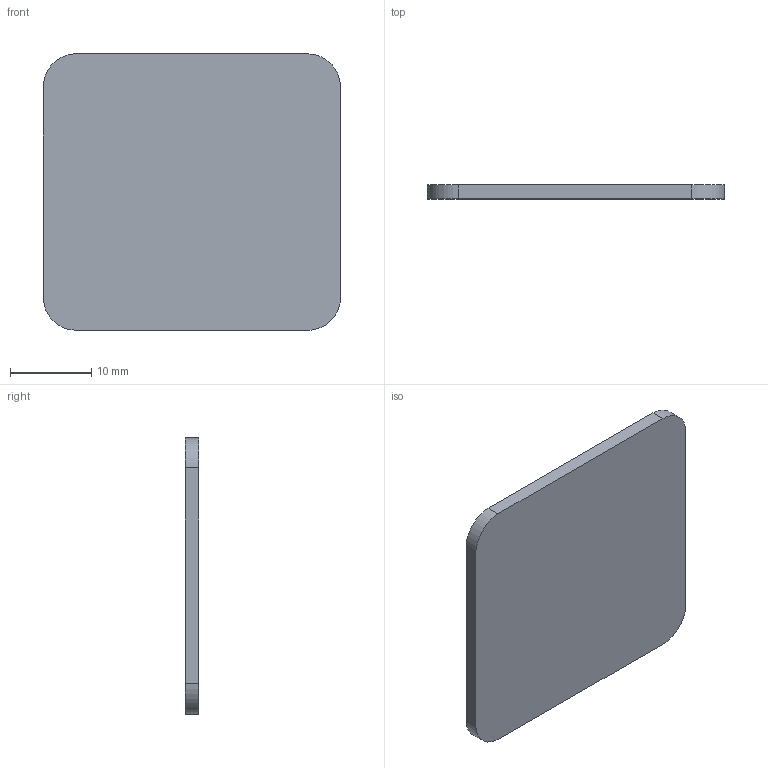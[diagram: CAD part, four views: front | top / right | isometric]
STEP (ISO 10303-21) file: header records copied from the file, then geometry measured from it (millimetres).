
FILE_DESCRIPTION(/* description */ ('STEP AP242 Edition 2','CAx-IF Rec.Pracs.---Representation and Presentation of Product Manufacturing Information (PMI)---4.0---2014-10-13','CAx-IF Rec.Pracs.---3D Tessellated Geometry---0.4---2014-09-14','2;1','CAx-IF Rec.Pracs.---User Defined Attributes---1.5---2016-08-15'),/* implementation_level */ '2;1');
FILE_NAME(/* name */ 'Assembly 1 - Part 32',/* time_stamp */ '2026-10-02T23:42:51Z',/* author */ (''),/* organization */ (''),/* preprocessor_version */ 'ST-DEVELOPER v20',/* originating_system */ 'ONSHAPE BY PTC INC, 1.221',/* authorisation */ ' ');
FILE_SCHEMA (('AP242_MANAGED_MODEL_BASED_3D_ENGINEERING_MIM_LF { 1 0 10303 442 3 1 4 }'));
Length unit declared in the file: metre
Products named in the file (1): Part 32
Bounding box: 36.58 x 1.72 x 34.04 mm (x, y, z)
Volume: 2117.4 mm3; surface area: 2693 mm2
Topology: 1 solids, 1 shells, 10 faces, 24 edges, 16 vertices
Faces by surface type: plane 6, cylinder 4
Entity records: 318 total; most frequent: DIRECTION 54, CARTESIAN_POINT 51, ORIENTED_EDGE 48, EDGE_CURVE 24, AXIS2_PLACEMENT_3D 19, VERTEX_POINT 16, LINE 16, VECTOR 16
